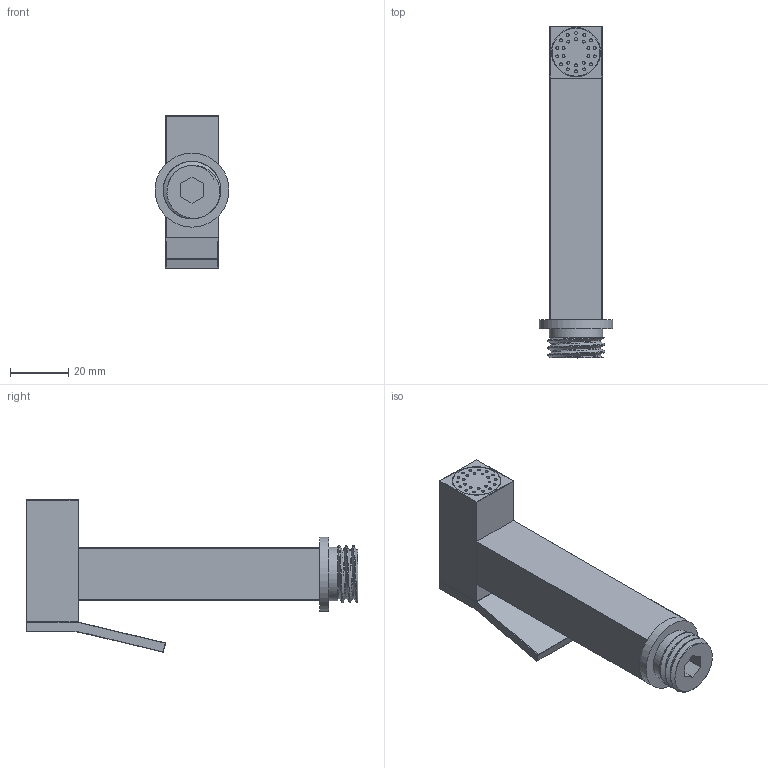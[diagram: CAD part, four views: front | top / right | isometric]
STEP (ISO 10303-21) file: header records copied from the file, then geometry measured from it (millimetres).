
FILE_DESCRIPTION(/* description */ (''),/* implementation_level */ '2;1');
FILE_NAME(/* name */ 'c:\worker\convert-fusion-r09\tmp\job-1\2\output\files\91cd23c1-cf28-45b3-85b0-a5378c411176\9f8a5fdb-b138-4138-8b7a-74f3d37886d5.stp',/* time_stamp */ '2019-12-15T19:22:09+00:00',/* author */ (''),/* organization */ (''),/* preprocessor_version */ 'ST-DEVELOPER v18',/* originating_system */ 'Autodesk Translation Framework v8.12.0.6',/* authorisation */ '');
FILE_SCHEMA (('AUTOMOTIVE_DESIGN { 1 0 10303 214 3 1 1 }'));
Length unit declared in the file: millimetre
Products named in the file (1): !Bidetta2-R/K
Bounding box: 25.46 x 114.16 x 52.49 mm (x, y, z)
Volume: 44523.3 mm3; surface area: 16656.2 mm2
Topology: 4 solids, 4 shells, 153 faces, 295 edges, 178 vertices
Faces by surface type: cylinder 69, plane 64, sphere 16, bspline 2, torus 2
Full cylindrical faces by diameter (mm): 1 x24, 16.5 x1, 16.9 x1, 16.938 x2, 18.4 x1, 19.791 x2, 25.456 x1
Entity records: 4989 total; most frequent: CARTESIAN_POINT 1780, DIRECTION 707, ORIENTED_EDGE 590, EDGE_CURVE 295, AXIS2_PLACEMENT_3D 281, EDGE_LOOP 183, VERTEX_POINT 178, FACE_OUTER_BOUND 153
